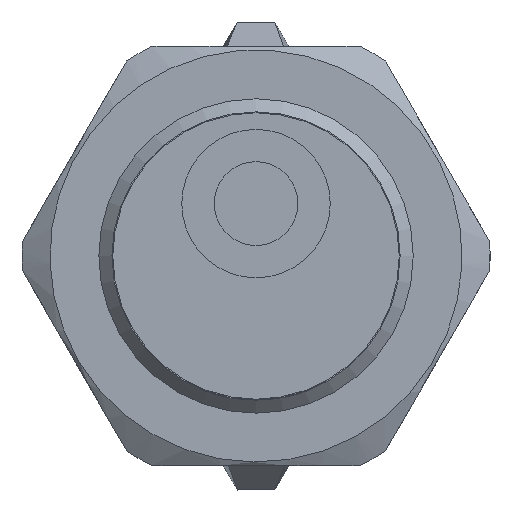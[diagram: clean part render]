
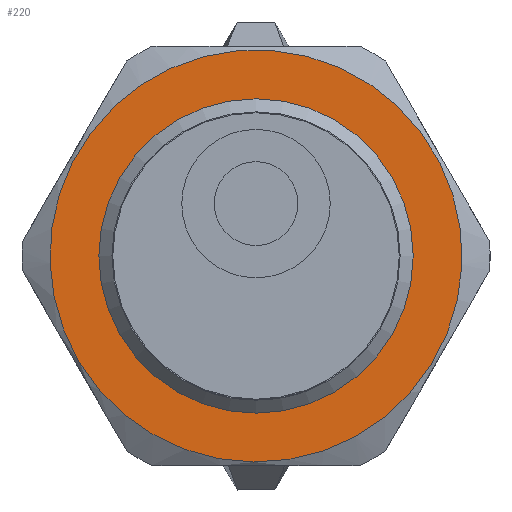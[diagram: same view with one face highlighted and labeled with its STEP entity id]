
A CAD part, left-side view. The second image highlights one B-rep face of the part: STEP entity #220.
In plain terms, the highlighted planar face has unit normal (-1, 0, 0) as drawn and (0, -1, 0) by its records, which use the part's own axes.
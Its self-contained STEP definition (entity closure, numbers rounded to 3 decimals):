
#220 = ADVANCED_FACE( '', ( #325, #326 ), #327, .F. );
#325 = FACE_BOUND( '', #435, .T. );
#326 = FACE_OUTER_BOUND( '', #436, .T. );
#327 = PLANE( '', #437 );
#435 = EDGE_LOOP( '', ( #723 ) );
#436 = EDGE_LOOP( '', ( #724 ) );
#437 = AXIS2_PLACEMENT_3D( '', #725, #726, #727 );
#723 = ORIENTED_EDGE( '', *, *, #818, .T. );
#724 = ORIENTED_EDGE( '', *, *, #814, .T. );
#725 = CARTESIAN_POINT( '', ( 0., -2., 0. ) );
#726 = DIRECTION( '', ( 0., 1., 0. ) );
#727 = DIRECTION( '', ( 0., 0., 1. ) );
#814 = EDGE_CURVE( '', #951, #951, #952, .T. );
#818 = EDGE_CURVE( '', #959, #959, #960, .T. );
#951 = VERTEX_POINT( '', #1426 );
#952 = CIRCLE( '', #1427, 11.8 );
#959 = VERTEX_POINT( '', #1434 );
#960 = CIRCLE( '', #1435, 8.959 );
#1426 = CARTESIAN_POINT( '', ( 0., -2., -11.8 ) );
#1427 = AXIS2_PLACEMENT_3D( '', #1553, #1554, #1555 );
#1434 = CARTESIAN_POINT( '', ( 0., -2., 8.959 ) );
#1435 = AXIS2_PLACEMENT_3D( '', #1565, #1566, #1567 );
#1553 = CARTESIAN_POINT( '', ( 0., -2., 0. ) );
#1554 = DIRECTION( '', ( 0., -1., 0. ) );
#1555 = DIRECTION( '', ( 0., 0., -1. ) );
#1565 = CARTESIAN_POINT( '', ( 0., -2., 0. ) );
#1566 = DIRECTION( '', ( 0., 1., 0. ) );
#1567 = DIRECTION( '', ( 0., 0., 1. ) );
